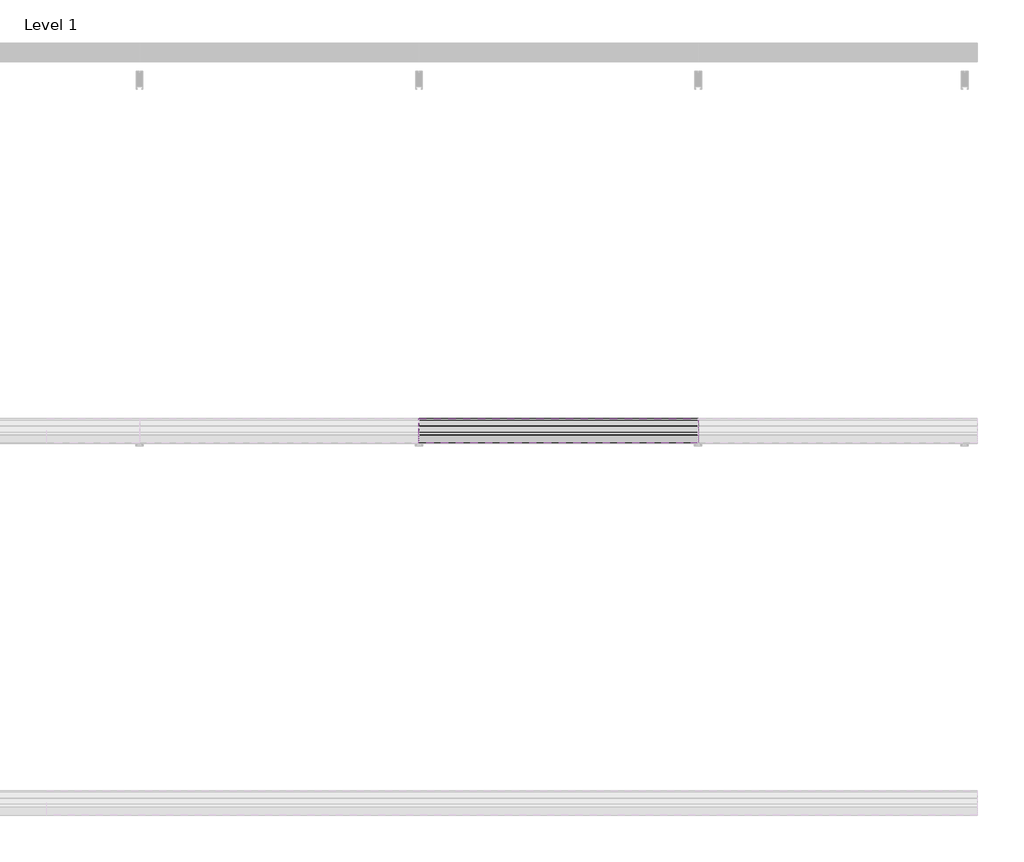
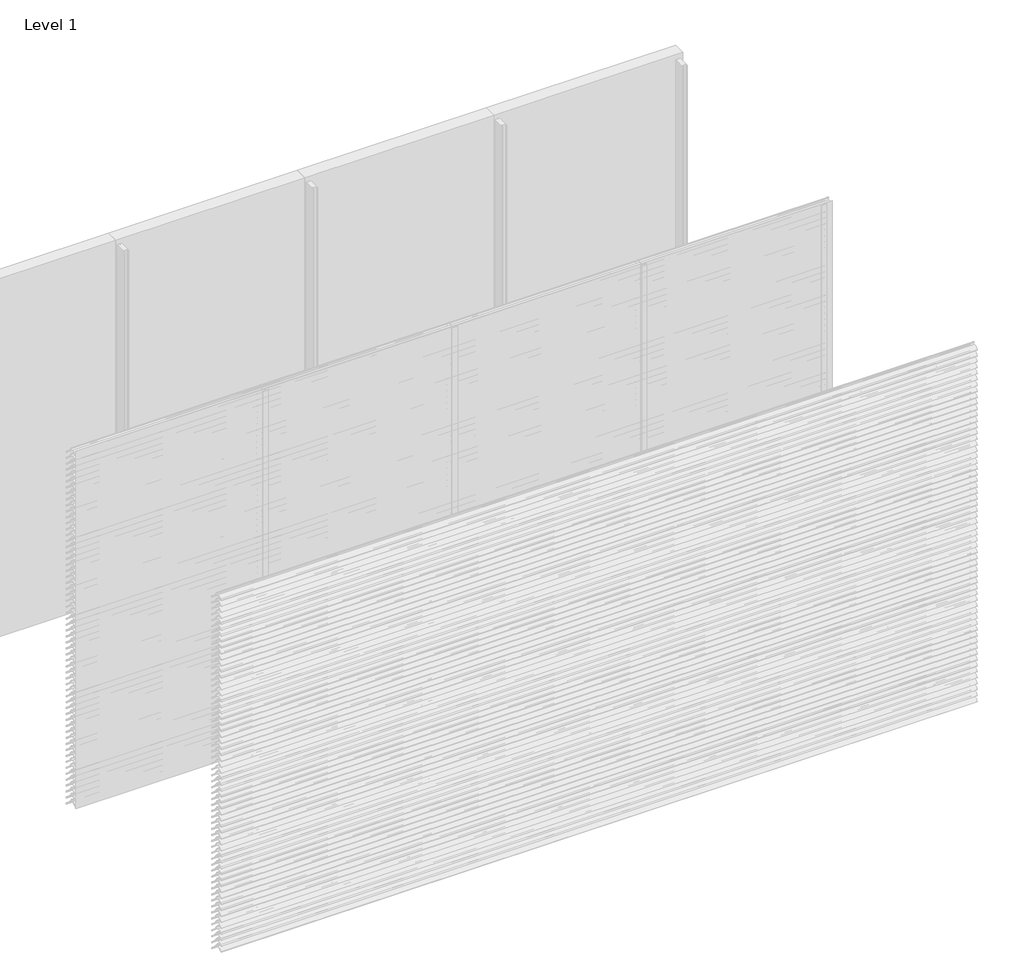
# One storey, part 101 of 173: 18 proxies.
"""IFC4 building model written with IfcOpenShell, lengths in millimetres."""

from ifc_helpers import new_model, si_unit, point, frame, frame_2d, origin, place, context, project, spatial, polyline, circle_curve, trimmed, segment, composite_curve, outline, extrude, element, save

model = new_model("IFC4")

# Units and contexts
model_context = context("Model", 3, world=origin())
ifc_project = project(units=[si_unit("LENGTHUNIT", "METRE", prefix="MILLI")], contexts=[model_context])

# Site, building, storey
site = spatial("IfcSite", under=ifc_project)
building = spatial("IfcBuilding", under=site)
storey = spatial("IfcBuildingStorey", under=building, Name="Level 1", Elevation=0.0)

# Proxies
placement = place(None, origin())
element("IfcBuildingElementProxy", 1, Name="Wall Sweeps", at=placement, inside=storey, context=model_context, shape_type="SweptSolid", body=[
    extrude(outline(composite_curve([segment(polyline([(-23998.0, 1259.1474905), (-23998.0, 1261.6227417)]), True, "CONTINUOUS"), segment(trimmed(circle_curve(frame_2d((-23951.2682172, 1216.2200208)), 65.1557103), [point((-23998.0, 1261.6227417))], [point((-23954.4014323, 1281.3003524))], False, "CARTESIAN"), True, "CONTINUOUS"), segment(polyline([(-23954.4014323, 1281.3003524), (-23934.8315836, 1281.3003524)]), True, "CONTINUOUS"), segment(trimmed(circle_curve(frame_2d((-23732.7329489, 1428.5533172)), 250.0545817), [point((-23934.8315836, 1281.3003524))], [point((-23941.4452143, 1290.8344583))], False, "CARTESIAN"), True, "CONTINUOUS"), segment(trimmed(circle_curve(frame_2d((-23953.2981792, 1285.1737835)), 13.1352966), [point((-23941.4452143, 1290.8344583))], [point((-23953.8171475, 1298.298824))], True, "CARTESIAN"), True, "CONTINUOUS"), segment(polyline([(-23953.8171475, 1298.298824), (-23953.8171475, 1300.0)]), True, "CONTINUOUS"), segment(trimmed(circle_curve(frame_2d((-23953.2981792, 1285.1737835)), 14.8352966), [point((-23953.8171475, 1300.0))], [point((-23939.9637661, 1291.6760487))], False, "CARTESIAN"), True, "CONTINUOUS"), segment(trimmed(circle_curve(frame_2d((-23732.7329489, 1428.5533172)), 248.3545817), [point((-23939.9637661, 1291.6760487))], [point((-23873.8787895, 1224.2059416))], True, "CARTESIAN"), True, "CONTINUOUS"), segment(trimmed(circle_curve(frame_2d((-23883.8147537, 1211.6649442)), 16.0), [point((-23873.8787895, 1224.2059416))], [point((-23867.8648347, 1210.4))], False, "CARTESIAN"), True, "CONTINUOUS"), segment(polyline([(-23867.8648347, 1210.4), (-23869.6712069, 1210.4)]), True, "CONTINUOUS"), segment(trimmed(circle_curve(frame_2d((-23883.8147537, 1211.6649442)), 14.2), [point((-23869.6712069, 1210.4))], [point((-23874.9518628, 1222.7594998))], True, "CARTESIAN"), True, "CONTINUOUS"), segment(trimmed(circle_curve(frame_2d((-23732.7329489, 1428.5533172)), 250.1545817), [point((-23874.9518628, 1222.7594998))], [point((-23933.7064024, 1279.6003524))], False, "CARTESIAN"), True, "CONTINUOUS"), segment(polyline([(-23933.7064024, 1279.6003524), (-23954.3602632, 1279.6003524)]), True, "CONTINUOUS"), segment(trimmed(circle_curve(frame_2d((-23951.2682172, 1216.2200208)), 63.4557103), [point((-23954.3602632, 1279.6003524))], [point((-23998.0, 1259.1474905))], True, "CARTESIAN"), True, "CONTINUOUS")], self_intersect=False)), frame((3000.0, 0.0, 0.0), z_axis=(1.0, 0.0, 0.0), x_axis=(0.0, 1.0, 0.0)), (0.0, 0.0, 1.0), 1500.0),
])
element("IfcBuildingElementProxy", 2, Name="Wall Sweeps", at=placement, inside=storey, context=model_context, shape_type="SweptSolid", body=[
    extrude(outline(composite_curve([segment(polyline([(-23998.0, 1209.1474905), (-23998.0, 1211.6227417)]), True, "CONTINUOUS"), segment(trimmed(circle_curve(frame_2d((-23951.2682172, 1166.2200208)), 65.1557103), [point((-23998.0, 1211.6227417))], [point((-23954.4014323, 1231.3003524))], False, "CARTESIAN"), True, "CONTINUOUS"), segment(polyline([(-23954.4014323, 1231.3003524), (-23934.8315836, 1231.3003524)]), True, "CONTINUOUS"), segment(trimmed(circle_curve(frame_2d((-23732.7329489, 1378.5533172)), 250.0545817), [point((-23934.8315836, 1231.3003524))], [point((-23941.4452143, 1240.8344583))], False, "CARTESIAN"), True, "CONTINUOUS"), segment(trimmed(circle_curve(frame_2d((-23953.2981792, 1235.1737835)), 13.1352966), [point((-23941.4452143, 1240.8344583))], [point((-23953.8171475, 1248.298824))], True, "CARTESIAN"), True, "CONTINUOUS"), segment(polyline([(-23953.8171475, 1248.298824), (-23953.8171475, 1250.0)]), True, "CONTINUOUS"), segment(trimmed(circle_curve(frame_2d((-23953.2981792, 1235.1737835)), 14.8352966), [point((-23953.8171475, 1250.0))], [point((-23939.9637661, 1241.6760487))], False, "CARTESIAN"), True, "CONTINUOUS"), segment(trimmed(circle_curve(frame_2d((-23732.7329489, 1378.5533172)), 248.3545817), [point((-23939.9637661, 1241.6760487))], [point((-23873.8787895, 1174.2059416))], True, "CARTESIAN"), True, "CONTINUOUS"), segment(trimmed(circle_curve(frame_2d((-23883.8147537, 1161.6649442)), 16.0), [point((-23873.8787895, 1174.2059416))], [point((-23867.8648347, 1160.4))], False, "CARTESIAN"), True, "CONTINUOUS"), segment(polyline([(-23867.8648347, 1160.4), (-23869.6712069, 1160.4)]), True, "CONTINUOUS"), segment(trimmed(circle_curve(frame_2d((-23883.8147537, 1161.6649442)), 14.2), [point((-23869.6712069, 1160.4))], [point((-23874.9518628, 1172.7594998))], True, "CARTESIAN"), True, "CONTINUOUS"), segment(trimmed(circle_curve(frame_2d((-23732.7329489, 1378.5533172)), 250.1545817), [point((-23874.9518628, 1172.7594998))], [point((-23933.7064024, 1229.6003524))], False, "CARTESIAN"), True, "CONTINUOUS"), segment(polyline([(-23933.7064024, 1229.6003524), (-23954.3602632, 1229.6003524)]), True, "CONTINUOUS"), segment(trimmed(circle_curve(frame_2d((-23951.2682172, 1166.2200208)), 63.4557103), [point((-23954.3602632, 1229.6003524))], [point((-23998.0, 1209.1474905))], True, "CARTESIAN"), True, "CONTINUOUS")], self_intersect=False)), frame((3000.0, 0.0, 0.0), z_axis=(1.0, 0.0, 0.0), x_axis=(0.0, 1.0, 0.0)), (0.0, 0.0, 1.0), 1500.0),
])
element("IfcBuildingElementProxy", 3, Name="Wall Sweeps", at=placement, inside=storey, context=model_context, shape_type="SweptSolid", body=[
    extrude(outline(composite_curve([segment(polyline([(-23998.0, 1159.1474905), (-23998.0, 1161.6227417)]), True, "CONTINUOUS"), segment(trimmed(circle_curve(frame_2d((-23951.2682172, 1116.2200208)), 65.1557103), [point((-23998.0, 1161.6227417))], [point((-23954.4014323, 1181.3003524))], False, "CARTESIAN"), True, "CONTINUOUS"), segment(polyline([(-23954.4014323, 1181.3003524), (-23934.8315836, 1181.3003524)]), True, "CONTINUOUS"), segment(trimmed(circle_curve(frame_2d((-23732.7329489, 1328.5533172)), 250.0545817), [point((-23934.8315836, 1181.3003524))], [point((-23941.4452143, 1190.8344583))], False, "CARTESIAN"), True, "CONTINUOUS"), segment(trimmed(circle_curve(frame_2d((-23953.2981792, 1185.1737835)), 13.1352966), [point((-23941.4452143, 1190.8344583))], [point((-23953.8171475, 1198.298824))], True, "CARTESIAN"), True, "CONTINUOUS"), segment(polyline([(-23953.8171475, 1198.298824), (-23953.8171475, 1200.0)]), True, "CONTINUOUS"), segment(trimmed(circle_curve(frame_2d((-23953.2981792, 1185.1737835)), 14.8352966), [point((-23953.8171475, 1200.0))], [point((-23939.9637661, 1191.6760487))], False, "CARTESIAN"), True, "CONTINUOUS"), segment(trimmed(circle_curve(frame_2d((-23732.7329489, 1328.5533172)), 248.3545817), [point((-23939.9637661, 1191.6760487))], [point((-23873.8787895, 1124.2059416))], True, "CARTESIAN"), True, "CONTINUOUS"), segment(trimmed(circle_curve(frame_2d((-23883.8147537, 1111.6649442)), 16.0), [point((-23873.8787895, 1124.2059416))], [point((-23867.8648347, 1110.4))], False, "CARTESIAN"), True, "CONTINUOUS"), segment(polyline([(-23867.8648347, 1110.4), (-23869.6712069, 1110.4)]), True, "CONTINUOUS"), segment(trimmed(circle_curve(frame_2d((-23883.8147537, 1111.6649442)), 14.2), [point((-23869.6712069, 1110.4))], [point((-23874.9518628, 1122.7594998))], True, "CARTESIAN"), True, "CONTINUOUS"), segment(trimmed(circle_curve(frame_2d((-23732.7329489, 1328.5533172)), 250.1545817), [point((-23874.9518628, 1122.7594998))], [point((-23933.7064024, 1179.6003524))], False, "CARTESIAN"), True, "CONTINUOUS"), segment(polyline([(-23933.7064024, 1179.6003524), (-23954.3602632, 1179.6003524)]), True, "CONTINUOUS"), segment(trimmed(circle_curve(frame_2d((-23951.2682172, 1116.2200208)), 63.4557103), [point((-23954.3602632, 1179.6003524))], [point((-23998.0, 1159.1474905))], True, "CARTESIAN"), True, "CONTINUOUS")], self_intersect=False)), frame((3000.0, 0.0, 0.0), z_axis=(1.0, 0.0, 0.0), x_axis=(0.0, 1.0, 0.0)), (0.0, 0.0, 1.0), 1500.0),
])
element("IfcBuildingElementProxy", 4, Name="Wall Sweeps", at=placement, inside=storey, context=model_context, shape_type="SweptSolid", body=[
    extrude(outline(composite_curve([segment(polyline([(-23998.0, 1109.1474905), (-23998.0, 1111.6227417)]), True, "CONTINUOUS"), segment(trimmed(circle_curve(frame_2d((-23951.2682172, 1066.2200208)), 65.1557103), [point((-23998.0, 1111.6227417))], [point((-23954.4014323, 1131.3003524))], False, "CARTESIAN"), True, "CONTINUOUS"), segment(polyline([(-23954.4014323, 1131.3003524), (-23934.8315836, 1131.3003524)]), True, "CONTINUOUS"), segment(trimmed(circle_curve(frame_2d((-23732.7329489, 1278.5533172)), 250.0545817), [point((-23934.8315836, 1131.3003524))], [point((-23941.4452143, 1140.8344583))], False, "CARTESIAN"), True, "CONTINUOUS"), segment(trimmed(circle_curve(frame_2d((-23953.2981792, 1135.1737835)), 13.1352966), [point((-23941.4452143, 1140.8344583))], [point((-23953.8171475, 1148.298824))], True, "CARTESIAN"), True, "CONTINUOUS"), segment(polyline([(-23953.8171475, 1148.298824), (-23953.8171475, 1150.0)]), True, "CONTINUOUS"), segment(trimmed(circle_curve(frame_2d((-23953.2981792, 1135.1737835)), 14.8352966), [point((-23953.8171475, 1150.0))], [point((-23939.9637661, 1141.6760487))], False, "CARTESIAN"), True, "CONTINUOUS"), segment(trimmed(circle_curve(frame_2d((-23732.7329489, 1278.5533172)), 248.3545817), [point((-23939.9637661, 1141.6760487))], [point((-23873.8787895, 1074.2059416))], True, "CARTESIAN"), True, "CONTINUOUS"), segment(trimmed(circle_curve(frame_2d((-23883.8147537, 1061.6649442)), 16.0), [point((-23873.8787895, 1074.2059416))], [point((-23867.8648347, 1060.4))], False, "CARTESIAN"), True, "CONTINUOUS"), segment(polyline([(-23867.8648347, 1060.4), (-23869.6712069, 1060.4)]), True, "CONTINUOUS"), segment(trimmed(circle_curve(frame_2d((-23883.8147537, 1061.6649442)), 14.2), [point((-23869.6712069, 1060.4))], [point((-23874.9518628, 1072.7594998))], True, "CARTESIAN"), True, "CONTINUOUS"), segment(trimmed(circle_curve(frame_2d((-23732.7329489, 1278.5533172)), 250.1545817), [point((-23874.9518628, 1072.7594998))], [point((-23933.7064024, 1129.6003524))], False, "CARTESIAN"), True, "CONTINUOUS"), segment(polyline([(-23933.7064024, 1129.6003524), (-23954.3602632, 1129.6003524)]), True, "CONTINUOUS"), segment(trimmed(circle_curve(frame_2d((-23951.2682172, 1066.2200208)), 63.4557103), [point((-23954.3602632, 1129.6003524))], [point((-23998.0, 1109.1474905))], True, "CARTESIAN"), True, "CONTINUOUS")], self_intersect=False)), frame((3000.0, 0.0, 0.0), z_axis=(1.0, 0.0, 0.0), x_axis=(0.0, 1.0, 0.0)), (0.0, 0.0, 1.0), 1500.0),
])
element("IfcBuildingElementProxy", 5, Name="Wall Sweeps", at=placement, inside=storey, context=model_context, shape_type="SweptSolid", body=[
    extrude(outline(composite_curve([segment(polyline([(-23998.0, 1059.1474905), (-23998.0, 1061.6227417)]), True, "CONTINUOUS"), segment(trimmed(circle_curve(frame_2d((-23951.2682172, 1016.2200208)), 65.1557103), [point((-23998.0, 1061.6227417))], [point((-23954.4014323, 1081.3003524))], False, "CARTESIAN"), True, "CONTINUOUS"), segment(polyline([(-23954.4014323, 1081.3003524), (-23934.8315836, 1081.3003524)]), True, "CONTINUOUS"), segment(trimmed(circle_curve(frame_2d((-23732.7329489, 1228.5533172)), 250.0545817), [point((-23934.8315836, 1081.3003524))], [point((-23941.4452143, 1090.8344583))], False, "CARTESIAN"), True, "CONTINUOUS"), segment(trimmed(circle_curve(frame_2d((-23953.2981792, 1085.1737835)), 13.1352966), [point((-23941.4452143, 1090.8344583))], [point((-23953.8171475, 1098.298824))], True, "CARTESIAN"), True, "CONTINUOUS"), segment(polyline([(-23953.8171475, 1098.298824), (-23953.8171475, 1100.0)]), True, "CONTINUOUS"), segment(trimmed(circle_curve(frame_2d((-23953.2981792, 1085.1737835)), 14.8352966), [point((-23953.8171475, 1100.0))], [point((-23939.9637661, 1091.6760487))], False, "CARTESIAN"), True, "CONTINUOUS"), segment(trimmed(circle_curve(frame_2d((-23732.7329489, 1228.5533172)), 248.3545817), [point((-23939.9637661, 1091.6760487))], [point((-23873.8787895, 1024.2059416))], True, "CARTESIAN"), True, "CONTINUOUS"), segment(trimmed(circle_curve(frame_2d((-23883.8147537, 1011.6649442)), 16.0), [point((-23873.8787895, 1024.2059416))], [point((-23867.8648347, 1010.4))], False, "CARTESIAN"), True, "CONTINUOUS"), segment(polyline([(-23867.8648347, 1010.4), (-23869.6712069, 1010.4)]), True, "CONTINUOUS"), segment(trimmed(circle_curve(frame_2d((-23883.8147537, 1011.6649442)), 14.2), [point((-23869.6712069, 1010.4))], [point((-23874.9518628, 1022.7594998))], True, "CARTESIAN"), True, "CONTINUOUS"), segment(trimmed(circle_curve(frame_2d((-23732.7329489, 1228.5533172)), 250.1545817), [point((-23874.9518628, 1022.7594998))], [point((-23933.7064024, 1079.6003524))], False, "CARTESIAN"), True, "CONTINUOUS"), segment(polyline([(-23933.7064024, 1079.6003524), (-23954.3602632, 1079.6003524)]), True, "CONTINUOUS"), segment(trimmed(circle_curve(frame_2d((-23951.2682172, 1016.2200208)), 63.4557103), [point((-23954.3602632, 1079.6003524))], [point((-23998.0, 1059.1474905))], True, "CARTESIAN"), True, "CONTINUOUS")], self_intersect=False)), frame((3000.0, 0.0, 0.0), z_axis=(1.0, 0.0, 0.0), x_axis=(0.0, 1.0, 0.0)), (0.0, 0.0, 1.0), 1500.0),
])
element("IfcBuildingElementProxy", 6, Name="Wall Sweeps", at=placement, inside=storey, context=model_context, shape_type="SweptSolid", body=[
    extrude(outline(composite_curve([segment(polyline([(-23998.0, 1009.1474905), (-23998.0, 1011.6227417)]), True, "CONTINUOUS"), segment(trimmed(circle_curve(frame_2d((-23951.2682172, 966.2200208)), 65.1557103), [point((-23998.0, 1011.6227417))], [point((-23954.4014323, 1031.3003524))], False, "CARTESIAN"), True, "CONTINUOUS"), segment(polyline([(-23954.4014323, 1031.3003524), (-23934.8315836, 1031.3003524)]), True, "CONTINUOUS"), segment(trimmed(circle_curve(frame_2d((-23732.7329489, 1178.5533172)), 250.0545817), [point((-23934.8315836, 1031.3003524))], [point((-23941.4452143, 1040.8344583))], False, "CARTESIAN"), True, "CONTINUOUS"), segment(trimmed(circle_curve(frame_2d((-23953.2981792, 1035.1737835)), 13.1352966), [point((-23941.4452143, 1040.8344583))], [point((-23953.8171475, 1048.298824))], True, "CARTESIAN"), True, "CONTINUOUS"), segment(polyline([(-23953.8171475, 1048.298824), (-23953.8171475, 1050.0)]), True, "CONTINUOUS"), segment(trimmed(circle_curve(frame_2d((-23953.2981792, 1035.1737835)), 14.8352966), [point((-23953.8171475, 1050.0))], [point((-23939.9637661, 1041.6760487))], False, "CARTESIAN"), True, "CONTINUOUS"), segment(trimmed(circle_curve(frame_2d((-23732.7329489, 1178.5533172)), 248.3545817), [point((-23939.9637661, 1041.6760487))], [point((-23873.8787895, 974.2059416))], True, "CARTESIAN"), True, "CONTINUOUS"), segment(trimmed(circle_curve(frame_2d((-23883.8147537, 961.6649442)), 16.0), [point((-23873.8787895, 974.2059416))], [point((-23867.8648347, 960.4))], False, "CARTESIAN"), True, "CONTINUOUS"), segment(polyline([(-23867.8648347, 960.4), (-23869.6712069, 960.4)]), True, "CONTINUOUS"), segment(trimmed(circle_curve(frame_2d((-23883.8147537, 961.6649442)), 14.2), [point((-23869.6712069, 960.4))], [point((-23874.9518628, 972.7594998))], True, "CARTESIAN"), True, "CONTINUOUS"), segment(trimmed(circle_curve(frame_2d((-23732.7329489, 1178.5533172)), 250.1545817), [point((-23874.9518628, 972.7594998))], [point((-23933.7064024, 1029.6003524))], False, "CARTESIAN"), True, "CONTINUOUS"), segment(polyline([(-23933.7064024, 1029.6003524), (-23954.3602632, 1029.6003524)]), True, "CONTINUOUS"), segment(trimmed(circle_curve(frame_2d((-23951.2682172, 966.2200208)), 63.4557103), [point((-23954.3602632, 1029.6003524))], [point((-23998.0, 1009.1474905))], True, "CARTESIAN"), True, "CONTINUOUS")], self_intersect=False)), frame((3000.0, 0.0, 0.0), z_axis=(1.0, 0.0, 0.0), x_axis=(0.0, 1.0, 0.0)), (0.0, 0.0, 1.0), 1500.0),
])
element("IfcBuildingElementProxy", 7, Name="Wall Sweeps", at=placement, inside=storey, context=model_context, shape_type="SweptSolid", body=[
    extrude(outline(composite_curve([segment(polyline([(-23998.0, 959.1474905), (-23998.0, 961.6227417)]), True, "CONTINUOUS"), segment(trimmed(circle_curve(frame_2d((-23951.2682172, 916.2200208)), 65.1557103), [point((-23998.0, 961.6227417))], [point((-23954.4014323, 981.3003524))], False, "CARTESIAN"), True, "CONTINUOUS"), segment(polyline([(-23954.4014323, 981.3003524), (-23934.8315836, 981.3003524)]), True, "CONTINUOUS"), segment(trimmed(circle_curve(frame_2d((-23732.7329489, 1128.5533172)), 250.0545817), [point((-23934.8315836, 981.3003524))], [point((-23941.4452143, 990.8344583))], False, "CARTESIAN"), True, "CONTINUOUS"), segment(trimmed(circle_curve(frame_2d((-23953.2981792, 985.1737835)), 13.1352966), [point((-23941.4452143, 990.8344583))], [point((-23953.8171475, 998.298824))], True, "CARTESIAN"), True, "CONTINUOUS"), segment(polyline([(-23953.8171475, 998.298824), (-23953.8171475, 1000.0)]), True, "CONTINUOUS"), segment(trimmed(circle_curve(frame_2d((-23953.2981792, 985.1737835)), 14.8352966), [point((-23953.8171475, 1000.0))], [point((-23939.9637661, 991.6760487))], False, "CARTESIAN"), True, "CONTINUOUS"), segment(trimmed(circle_curve(frame_2d((-23732.7329489, 1128.5533172)), 248.3545817), [point((-23939.9637661, 991.6760487))], [point((-23873.8787895, 924.2059416))], True, "CARTESIAN"), True, "CONTINUOUS"), segment(trimmed(circle_curve(frame_2d((-23883.8147537, 911.6649442)), 16.0), [point((-23873.8787895, 924.2059416))], [point((-23867.8648347, 910.4))], False, "CARTESIAN"), True, "CONTINUOUS"), segment(polyline([(-23867.8648347, 910.4), (-23869.6712069, 910.4)]), True, "CONTINUOUS"), segment(trimmed(circle_curve(frame_2d((-23883.8147537, 911.6649442)), 14.2), [point((-23869.6712069, 910.4))], [point((-23874.9518628, 922.7594998))], True, "CARTESIAN"), True, "CONTINUOUS"), segment(trimmed(circle_curve(frame_2d((-23732.7329489, 1128.5533172)), 250.1545817), [point((-23874.9518628, 922.7594998))], [point((-23933.7064024, 979.6003524))], False, "CARTESIAN"), True, "CONTINUOUS"), segment(polyline([(-23933.7064024, 979.6003524), (-23954.3602632, 979.6003524)]), True, "CONTINUOUS"), segment(trimmed(circle_curve(frame_2d((-23951.2682172, 916.2200208)), 63.4557103), [point((-23954.3602632, 979.6003524))], [point((-23998.0, 959.1474905))], True, "CARTESIAN"), True, "CONTINUOUS")], self_intersect=False)), frame((3000.0, 0.0, 0.0), z_axis=(1.0, 0.0, 0.0), x_axis=(0.0, 1.0, 0.0)), (0.0, 0.0, 1.0), 1500.0),
])
element("IfcBuildingElementProxy", 8, Name="Wall Sweeps", at=placement, inside=storey, context=model_context, shape_type="SweptSolid", body=[
    extrude(outline(composite_curve([segment(polyline([(-23998.0, 909.1474905), (-23998.0, 911.6227417)]), True, "CONTINUOUS"), segment(trimmed(circle_curve(frame_2d((-23951.2682172, 866.2200208)), 65.1557103), [point((-23998.0, 911.6227417))], [point((-23954.4014323, 931.3003524))], False, "CARTESIAN"), True, "CONTINUOUS"), segment(polyline([(-23954.4014323, 931.3003524), (-23934.8315836, 931.3003524)]), True, "CONTINUOUS"), segment(trimmed(circle_curve(frame_2d((-23732.7329489, 1078.5533172)), 250.0545817), [point((-23934.8315836, 931.3003524))], [point((-23941.4452143, 940.8344583))], False, "CARTESIAN"), True, "CONTINUOUS"), segment(trimmed(circle_curve(frame_2d((-23953.2981792, 935.1737835)), 13.1352966), [point((-23941.4452143, 940.8344583))], [point((-23953.8171475, 948.298824))], True, "CARTESIAN"), True, "CONTINUOUS"), segment(polyline([(-23953.8171475, 948.298824), (-23953.8171475, 950.0)]), True, "CONTINUOUS"), segment(trimmed(circle_curve(frame_2d((-23953.2981792, 935.1737835)), 14.8352966), [point((-23953.8171475, 950.0))], [point((-23939.9637661, 941.6760487))], False, "CARTESIAN"), True, "CONTINUOUS"), segment(trimmed(circle_curve(frame_2d((-23732.7329489, 1078.5533172)), 248.3545817), [point((-23939.9637661, 941.6760487))], [point((-23873.8787895, 874.2059416))], True, "CARTESIAN"), True, "CONTINUOUS"), segment(trimmed(circle_curve(frame_2d((-23883.8147537, 861.6649442)), 16.0), [point((-23873.8787895, 874.2059416))], [point((-23867.8648347, 860.4))], False, "CARTESIAN"), True, "CONTINUOUS"), segment(polyline([(-23867.8648347, 860.4), (-23869.6712069, 860.4)]), True, "CONTINUOUS"), segment(trimmed(circle_curve(frame_2d((-23883.8147537, 861.6649442)), 14.2), [point((-23869.6712069, 860.4))], [point((-23874.9518628, 872.7594998))], True, "CARTESIAN"), True, "CONTINUOUS"), segment(trimmed(circle_curve(frame_2d((-23732.7329489, 1078.5533172)), 250.1545817), [point((-23874.9518628, 872.7594998))], [point((-23933.7064024, 929.6003524))], False, "CARTESIAN"), True, "CONTINUOUS"), segment(polyline([(-23933.7064024, 929.6003524), (-23954.3602632, 929.6003524)]), True, "CONTINUOUS"), segment(trimmed(circle_curve(frame_2d((-23951.2682172, 866.2200208)), 63.4557103), [point((-23954.3602632, 929.6003524))], [point((-23998.0, 909.1474905))], True, "CARTESIAN"), True, "CONTINUOUS")], self_intersect=False)), frame((3000.0, 0.0, 0.0), z_axis=(1.0, 0.0, 0.0), x_axis=(0.0, 1.0, 0.0)), (0.0, 0.0, 1.0), 1500.0),
])
element("IfcBuildingElementProxy", 9, Name="Wall Sweeps", at=placement, inside=storey, context=model_context, shape_type="SweptSolid", body=[
    extrude(outline(composite_curve([segment(polyline([(-23998.0, 859.1474905), (-23998.0, 861.6227417)]), True, "CONTINUOUS"), segment(trimmed(circle_curve(frame_2d((-23951.2682172, 816.2200208)), 65.1557103), [point((-23998.0, 861.6227417))], [point((-23954.4014323, 881.3003524))], False, "CARTESIAN"), True, "CONTINUOUS"), segment(polyline([(-23954.4014323, 881.3003524), (-23934.8315836, 881.3003524)]), True, "CONTINUOUS"), segment(trimmed(circle_curve(frame_2d((-23732.7329489, 1028.5533172)), 250.0545817), [point((-23934.8315836, 881.3003524))], [point((-23941.4452143, 890.8344583))], False, "CARTESIAN"), True, "CONTINUOUS"), segment(trimmed(circle_curve(frame_2d((-23953.2981792, 885.1737835)), 13.1352966), [point((-23941.4452143, 890.8344583))], [point((-23953.8171475, 898.298824))], True, "CARTESIAN"), True, "CONTINUOUS"), segment(polyline([(-23953.8171475, 898.298824), (-23953.8171475, 900.0)]), True, "CONTINUOUS"), segment(trimmed(circle_curve(frame_2d((-23953.2981792, 885.1737835)), 14.8352966), [point((-23953.8171475, 900.0))], [point((-23939.9637661, 891.6760487))], False, "CARTESIAN"), True, "CONTINUOUS"), segment(trimmed(circle_curve(frame_2d((-23732.7329489, 1028.5533172)), 248.3545817), [point((-23939.9637661, 891.6760487))], [point((-23873.8787895, 824.2059416))], True, "CARTESIAN"), True, "CONTINUOUS"), segment(trimmed(circle_curve(frame_2d((-23883.8147537, 811.6649442)), 16.0), [point((-23873.8787895, 824.2059416))], [point((-23867.8648347, 810.4))], False, "CARTESIAN"), True, "CONTINUOUS"), segment(polyline([(-23867.8648347, 810.4), (-23869.6712069, 810.4)]), True, "CONTINUOUS"), segment(trimmed(circle_curve(frame_2d((-23883.8147537, 811.6649442)), 14.2), [point((-23869.6712069, 810.4))], [point((-23874.9518628, 822.7594998))], True, "CARTESIAN"), True, "CONTINUOUS"), segment(trimmed(circle_curve(frame_2d((-23732.7329489, 1028.5533172)), 250.1545817), [point((-23874.9518628, 822.7594998))], [point((-23933.7064024, 879.6003524))], False, "CARTESIAN"), True, "CONTINUOUS"), segment(polyline([(-23933.7064024, 879.6003524), (-23954.3602632, 879.6003524)]), True, "CONTINUOUS"), segment(trimmed(circle_curve(frame_2d((-23951.2682172, 816.2200208)), 63.4557103), [point((-23954.3602632, 879.6003524))], [point((-23998.0, 859.1474905))], True, "CARTESIAN"), True, "CONTINUOUS")], self_intersect=False)), frame((3000.0, 0.0, 0.0), z_axis=(1.0, 0.0, 0.0), x_axis=(0.0, 1.0, 0.0)), (0.0, 0.0, 1.0), 1500.0),
])
element("IfcBuildingElementProxy", 10, Name="Wall Sweeps", at=placement, inside=storey, context=model_context, shape_type="SweptSolid", body=[
    extrude(outline(composite_curve([segment(polyline([(-23998.0, 809.1474905), (-23998.0, 811.6227417)]), True, "CONTINUOUS"), segment(trimmed(circle_curve(frame_2d((-23951.2682172, 766.2200208)), 65.1557103), [point((-23998.0, 811.6227417))], [point((-23954.4014323, 831.3003524))], False, "CARTESIAN"), True, "CONTINUOUS"), segment(polyline([(-23954.4014323, 831.3003524), (-23934.8315836, 831.3003524)]), True, "CONTINUOUS"), segment(trimmed(circle_curve(frame_2d((-23732.7329489, 978.5533172)), 250.0545817), [point((-23934.8315836, 831.3003524))], [point((-23941.4452143, 840.8344583))], False, "CARTESIAN"), True, "CONTINUOUS"), segment(trimmed(circle_curve(frame_2d((-23953.2981792, 835.1737835)), 13.1352966), [point((-23941.4452143, 840.8344583))], [point((-23953.8171475, 848.298824))], True, "CARTESIAN"), True, "CONTINUOUS"), segment(polyline([(-23953.8171475, 848.298824), (-23953.8171475, 850.0)]), True, "CONTINUOUS"), segment(trimmed(circle_curve(frame_2d((-23953.2981792, 835.1737835)), 14.8352966), [point((-23953.8171475, 850.0))], [point((-23939.9637661, 841.6760487))], False, "CARTESIAN"), True, "CONTINUOUS"), segment(trimmed(circle_curve(frame_2d((-23732.7329489, 978.5533172)), 248.3545817), [point((-23939.9637661, 841.6760487))], [point((-23873.8787895, 774.2059416))], True, "CARTESIAN"), True, "CONTINUOUS"), segment(trimmed(circle_curve(frame_2d((-23883.8147537, 761.6649442)), 16.0), [point((-23873.8787895, 774.2059416))], [point((-23867.8648347, 760.4))], False, "CARTESIAN"), True, "CONTINUOUS"), segment(polyline([(-23867.8648347, 760.4), (-23869.6712069, 760.4)]), True, "CONTINUOUS"), segment(trimmed(circle_curve(frame_2d((-23883.8147537, 761.6649442)), 14.2), [point((-23869.6712069, 760.4))], [point((-23874.9518628, 772.7594998))], True, "CARTESIAN"), True, "CONTINUOUS"), segment(trimmed(circle_curve(frame_2d((-23732.7329489, 978.5533172)), 250.1545817), [point((-23874.9518628, 772.7594998))], [point((-23933.7064024, 829.6003524))], False, "CARTESIAN"), True, "CONTINUOUS"), segment(polyline([(-23933.7064024, 829.6003524), (-23954.3602632, 829.6003524)]), True, "CONTINUOUS"), segment(trimmed(circle_curve(frame_2d((-23951.2682172, 766.2200208)), 63.4557103), [point((-23954.3602632, 829.6003524))], [point((-23998.0, 809.1474905))], True, "CARTESIAN"), True, "CONTINUOUS")], self_intersect=False)), frame((3000.0, 0.0, 0.0), z_axis=(1.0, 0.0, 0.0), x_axis=(0.0, 1.0, 0.0)), (0.0, 0.0, 1.0), 1500.0),
])
element("IfcBuildingElementProxy", 11, Name="Wall Sweeps", at=placement, inside=storey, context=model_context, shape_type="SweptSolid", body=[
    extrude(outline(composite_curve([segment(polyline([(-23998.0, 759.1474905), (-23998.0, 761.6227417)]), True, "CONTINUOUS"), segment(trimmed(circle_curve(frame_2d((-23951.2682172, 716.2200208)), 65.1557103), [point((-23998.0, 761.6227417))], [point((-23954.4014323, 781.3003524))], False, "CARTESIAN"), True, "CONTINUOUS"), segment(polyline([(-23954.4014323, 781.3003524), (-23934.8315836, 781.3003524)]), True, "CONTINUOUS"), segment(trimmed(circle_curve(frame_2d((-23732.7329489, 928.5533172)), 250.0545817), [point((-23934.8315836, 781.3003524))], [point((-23941.4452143, 790.8344583))], False, "CARTESIAN"), True, "CONTINUOUS"), segment(trimmed(circle_curve(frame_2d((-23953.2981792, 785.1737835)), 13.1352966), [point((-23941.4452143, 790.8344583))], [point((-23953.8171475, 798.298824))], True, "CARTESIAN"), True, "CONTINUOUS"), segment(polyline([(-23953.8171475, 798.298824), (-23953.8171475, 800.0)]), True, "CONTINUOUS"), segment(trimmed(circle_curve(frame_2d((-23953.2981792, 785.1737835)), 14.8352966), [point((-23953.8171475, 800.0))], [point((-23939.9637661, 791.6760487))], False, "CARTESIAN"), True, "CONTINUOUS"), segment(trimmed(circle_curve(frame_2d((-23732.7329489, 928.5533172)), 248.3545817), [point((-23939.9637661, 791.6760487))], [point((-23873.8787895, 724.2059416))], True, "CARTESIAN"), True, "CONTINUOUS"), segment(trimmed(circle_curve(frame_2d((-23883.8147537, 711.6649442)), 16.0), [point((-23873.8787895, 724.2059416))], [point((-23867.8648347, 710.4))], False, "CARTESIAN"), True, "CONTINUOUS"), segment(polyline([(-23867.8648347, 710.4), (-23869.6712069, 710.4)]), True, "CONTINUOUS"), segment(trimmed(circle_curve(frame_2d((-23883.8147537, 711.6649442)), 14.2), [point((-23869.6712069, 710.4))], [point((-23874.9518628, 722.7594998))], True, "CARTESIAN"), True, "CONTINUOUS"), segment(trimmed(circle_curve(frame_2d((-23732.7329489, 928.5533172)), 250.1545817), [point((-23874.9518628, 722.7594998))], [point((-23933.7064024, 779.6003524))], False, "CARTESIAN"), True, "CONTINUOUS"), segment(polyline([(-23933.7064024, 779.6003524), (-23954.3602632, 779.6003524)]), True, "CONTINUOUS"), segment(trimmed(circle_curve(frame_2d((-23951.2682172, 716.2200208)), 63.4557103), [point((-23954.3602632, 779.6003524))], [point((-23998.0, 759.1474905))], True, "CARTESIAN"), True, "CONTINUOUS")], self_intersect=False)), frame((3000.0, 0.0, 0.0), z_axis=(1.0, 0.0, 0.0), x_axis=(0.0, 1.0, 0.0)), (0.0, 0.0, 1.0), 1500.0),
])
element("IfcBuildingElementProxy", 12, Name="Wall Sweeps", at=placement, inside=storey, context=model_context, shape_type="SweptSolid", body=[
    extrude(outline(composite_curve([segment(polyline([(-23998.0, 709.1474905), (-23998.0, 711.6227417)]), True, "CONTINUOUS"), segment(trimmed(circle_curve(frame_2d((-23951.2682172, 666.2200208)), 65.1557103), [point((-23998.0, 711.6227417))], [point((-23954.4014323, 731.3003524))], False, "CARTESIAN"), True, "CONTINUOUS"), segment(polyline([(-23954.4014323, 731.3003524), (-23934.8315836, 731.3003524)]), True, "CONTINUOUS"), segment(trimmed(circle_curve(frame_2d((-23732.7329489, 878.5533172)), 250.0545817), [point((-23934.8315836, 731.3003524))], [point((-23941.4452143, 740.8344583))], False, "CARTESIAN"), True, "CONTINUOUS"), segment(trimmed(circle_curve(frame_2d((-23953.2981792, 735.1737835)), 13.1352966), [point((-23941.4452143, 740.8344583))], [point((-23953.8171475, 748.298824))], True, "CARTESIAN"), True, "CONTINUOUS"), segment(polyline([(-23953.8171475, 748.298824), (-23953.8171475, 750.0)]), True, "CONTINUOUS"), segment(trimmed(circle_curve(frame_2d((-23953.2981792, 735.1737835)), 14.8352966), [point((-23953.8171475, 750.0))], [point((-23939.9637661, 741.6760487))], False, "CARTESIAN"), True, "CONTINUOUS"), segment(trimmed(circle_curve(frame_2d((-23732.7329489, 878.5533172)), 248.3545817), [point((-23939.9637661, 741.6760487))], [point((-23873.8787895, 674.2059416))], True, "CARTESIAN"), True, "CONTINUOUS"), segment(trimmed(circle_curve(frame_2d((-23883.8147537, 661.6649442)), 16.0), [point((-23873.8787895, 674.2059416))], [point((-23867.8648347, 660.4))], False, "CARTESIAN"), True, "CONTINUOUS"), segment(polyline([(-23867.8648347, 660.4), (-23869.6712069, 660.4)]), True, "CONTINUOUS"), segment(trimmed(circle_curve(frame_2d((-23883.8147537, 661.6649442)), 14.2), [point((-23869.6712069, 660.4))], [point((-23874.9518628, 672.7594998))], True, "CARTESIAN"), True, "CONTINUOUS"), segment(trimmed(circle_curve(frame_2d((-23732.7329489, 878.5533172)), 250.1545817), [point((-23874.9518628, 672.7594998))], [point((-23933.7064024, 729.6003524))], False, "CARTESIAN"), True, "CONTINUOUS"), segment(polyline([(-23933.7064024, 729.6003524), (-23954.3602632, 729.6003524)]), True, "CONTINUOUS"), segment(trimmed(circle_curve(frame_2d((-23951.2682172, 666.2200208)), 63.4557103), [point((-23954.3602632, 729.6003524))], [point((-23998.0, 709.1474905))], True, "CARTESIAN"), True, "CONTINUOUS")], self_intersect=False)), frame((3000.0, 0.0, 0.0), z_axis=(1.0, 0.0, 0.0), x_axis=(0.0, 1.0, 0.0)), (0.0, 0.0, 1.0), 1500.0),
])
element("IfcBuildingElementProxy", 13, Name="Wall Sweeps", at=placement, inside=storey, context=model_context, shape_type="SweptSolid", body=[
    extrude(outline(composite_curve([segment(polyline([(-23998.0, 659.1474905), (-23998.0, 661.6227417)]), True, "CONTINUOUS"), segment(trimmed(circle_curve(frame_2d((-23951.2682172, 616.2200208)), 65.1557103), [point((-23998.0, 661.6227417))], [point((-23954.4014323, 681.3003524))], False, "CARTESIAN"), True, "CONTINUOUS"), segment(polyline([(-23954.4014323, 681.3003524), (-23934.8315836, 681.3003524)]), True, "CONTINUOUS"), segment(trimmed(circle_curve(frame_2d((-23732.7329489, 828.5533172)), 250.0545817), [point((-23934.8315836, 681.3003524))], [point((-23941.4452143, 690.8344583))], False, "CARTESIAN"), True, "CONTINUOUS"), segment(trimmed(circle_curve(frame_2d((-23953.2981792, 685.1737835)), 13.1352966), [point((-23941.4452143, 690.8344583))], [point((-23953.8171475, 698.298824))], True, "CARTESIAN"), True, "CONTINUOUS"), segment(polyline([(-23953.8171475, 698.298824), (-23953.8171475, 700.0)]), True, "CONTINUOUS"), segment(trimmed(circle_curve(frame_2d((-23953.2981792, 685.1737835)), 14.8352966), [point((-23953.8171475, 700.0))], [point((-23939.9637661, 691.6760487))], False, "CARTESIAN"), True, "CONTINUOUS"), segment(trimmed(circle_curve(frame_2d((-23732.7329489, 828.5533172)), 248.3545817), [point((-23939.9637661, 691.6760487))], [point((-23873.8787895, 624.2059416))], True, "CARTESIAN"), True, "CONTINUOUS"), segment(trimmed(circle_curve(frame_2d((-23883.8147537, 611.6649442)), 16.0), [point((-23873.8787895, 624.2059416))], [point((-23867.8648347, 610.4))], False, "CARTESIAN"), True, "CONTINUOUS"), segment(polyline([(-23867.8648347, 610.4), (-23869.6712069, 610.4)]), True, "CONTINUOUS"), segment(trimmed(circle_curve(frame_2d((-23883.8147537, 611.6649442)), 14.2), [point((-23869.6712069, 610.4))], [point((-23874.9518628, 622.7594998))], True, "CARTESIAN"), True, "CONTINUOUS"), segment(trimmed(circle_curve(frame_2d((-23732.7329489, 828.5533172)), 250.1545817), [point((-23874.9518628, 622.7594998))], [point((-23933.7064024, 679.6003524))], False, "CARTESIAN"), True, "CONTINUOUS"), segment(polyline([(-23933.7064024, 679.6003524), (-23954.3602632, 679.6003524)]), True, "CONTINUOUS"), segment(trimmed(circle_curve(frame_2d((-23951.2682172, 616.2200208)), 63.4557103), [point((-23954.3602632, 679.6003524))], [point((-23998.0, 659.1474905))], True, "CARTESIAN"), True, "CONTINUOUS")], self_intersect=False)), frame((3000.0, 0.0, 0.0), z_axis=(1.0, 0.0, 0.0), x_axis=(0.0, 1.0, 0.0)), (0.0, 0.0, 1.0), 1500.0),
])
element("IfcBuildingElementProxy", 14, Name="Wall Sweeps", at=placement, inside=storey, context=model_context, shape_type="SweptSolid", body=[
    extrude(outline(composite_curve([segment(polyline([(-23998.0, 609.1474905), (-23998.0, 611.6227417)]), True, "CONTINUOUS"), segment(trimmed(circle_curve(frame_2d((-23951.2682172, 566.2200208)), 65.1557103), [point((-23998.0, 611.6227417))], [point((-23954.4014323, 631.3003524))], False, "CARTESIAN"), True, "CONTINUOUS"), segment(polyline([(-23954.4014323, 631.3003524), (-23934.8315836, 631.3003524)]), True, "CONTINUOUS"), segment(trimmed(circle_curve(frame_2d((-23732.7329489, 778.5533172)), 250.0545817), [point((-23934.8315836, 631.3003524))], [point((-23941.4452143, 640.8344583))], False, "CARTESIAN"), True, "CONTINUOUS"), segment(trimmed(circle_curve(frame_2d((-23953.2981792, 635.1737835)), 13.1352966), [point((-23941.4452143, 640.8344583))], [point((-23953.8171475, 648.298824))], True, "CARTESIAN"), True, "CONTINUOUS"), segment(polyline([(-23953.8171475, 648.298824), (-23953.8171475, 650.0)]), True, "CONTINUOUS"), segment(trimmed(circle_curve(frame_2d((-23953.2981792, 635.1737835)), 14.8352966), [point((-23953.8171475, 650.0))], [point((-23939.9637661, 641.6760487))], False, "CARTESIAN"), True, "CONTINUOUS"), segment(trimmed(circle_curve(frame_2d((-23732.7329489, 778.5533172)), 248.3545817), [point((-23939.9637661, 641.6760487))], [point((-23873.8787895, 574.2059416))], True, "CARTESIAN"), True, "CONTINUOUS"), segment(trimmed(circle_curve(frame_2d((-23883.8147537, 561.6649442)), 16.0), [point((-23873.8787895, 574.2059416))], [point((-23867.8648347, 560.4))], False, "CARTESIAN"), True, "CONTINUOUS"), segment(polyline([(-23867.8648347, 560.4), (-23869.6712069, 560.4)]), True, "CONTINUOUS"), segment(trimmed(circle_curve(frame_2d((-23883.8147537, 561.6649442)), 14.2), [point((-23869.6712069, 560.4))], [point((-23874.9518628, 572.7594998))], True, "CARTESIAN"), True, "CONTINUOUS"), segment(trimmed(circle_curve(frame_2d((-23732.7329489, 778.5533172)), 250.1545817), [point((-23874.9518628, 572.7594998))], [point((-23933.7064024, 629.6003524))], False, "CARTESIAN"), True, "CONTINUOUS"), segment(polyline([(-23933.7064024, 629.6003524), (-23954.3602632, 629.6003524)]), True, "CONTINUOUS"), segment(trimmed(circle_curve(frame_2d((-23951.2682172, 566.2200208)), 63.4557103), [point((-23954.3602632, 629.6003524))], [point((-23998.0, 609.1474905))], True, "CARTESIAN"), True, "CONTINUOUS")], self_intersect=False)), frame((3000.0, 0.0, 0.0), z_axis=(1.0, 0.0, 0.0), x_axis=(0.0, 1.0, 0.0)), (0.0, 0.0, 1.0), 1500.0),
])
element("IfcBuildingElementProxy", 15, Name="Wall Sweeps", at=placement, inside=storey, context=model_context, shape_type="SweptSolid", body=[
    extrude(outline(composite_curve([segment(polyline([(-23998.0, 559.1474905), (-23998.0, 561.6227417)]), True, "CONTINUOUS"), segment(trimmed(circle_curve(frame_2d((-23951.2682172, 516.2200208)), 65.1557103), [point((-23998.0, 561.6227417))], [point((-23954.4014323, 581.3003524))], False, "CARTESIAN"), True, "CONTINUOUS"), segment(polyline([(-23954.4014323, 581.3003524), (-23934.8315836, 581.3003524)]), True, "CONTINUOUS"), segment(trimmed(circle_curve(frame_2d((-23732.7329489, 728.5533172)), 250.0545817), [point((-23934.8315836, 581.3003524))], [point((-23941.4452143, 590.8344583))], False, "CARTESIAN"), True, "CONTINUOUS"), segment(trimmed(circle_curve(frame_2d((-23953.2981792, 585.1737835)), 13.1352966), [point((-23941.4452143, 590.8344583))], [point((-23953.8171475, 598.298824))], True, "CARTESIAN"), True, "CONTINUOUS"), segment(polyline([(-23953.8171475, 598.298824), (-23953.8171475, 600.0)]), True, "CONTINUOUS"), segment(trimmed(circle_curve(frame_2d((-23953.2981792, 585.1737835)), 14.8352966), [point((-23953.8171475, 600.0))], [point((-23939.9637661, 591.6760487))], False, "CARTESIAN"), True, "CONTINUOUS"), segment(trimmed(circle_curve(frame_2d((-23732.7329489, 728.5533172)), 248.3545817), [point((-23939.9637661, 591.6760487))], [point((-23873.8787895, 524.2059416))], True, "CARTESIAN"), True, "CONTINUOUS"), segment(trimmed(circle_curve(frame_2d((-23883.8147537, 511.6649442)), 16.0), [point((-23873.8787895, 524.2059416))], [point((-23867.8648347, 510.4))], False, "CARTESIAN"), True, "CONTINUOUS"), segment(polyline([(-23867.8648347, 510.4), (-23869.6712069, 510.4)]), True, "CONTINUOUS"), segment(trimmed(circle_curve(frame_2d((-23883.8147537, 511.6649442)), 14.2), [point((-23869.6712069, 510.4))], [point((-23874.9518628, 522.7594998))], True, "CARTESIAN"), True, "CONTINUOUS"), segment(trimmed(circle_curve(frame_2d((-23732.7329489, 728.5533172)), 250.1545817), [point((-23874.9518628, 522.7594998))], [point((-23933.7064024, 579.6003524))], False, "CARTESIAN"), True, "CONTINUOUS"), segment(polyline([(-23933.7064024, 579.6003524), (-23954.3602632, 579.6003524)]), True, "CONTINUOUS"), segment(trimmed(circle_curve(frame_2d((-23951.2682172, 516.2200208)), 63.4557103), [point((-23954.3602632, 579.6003524))], [point((-23998.0, 559.1474905))], True, "CARTESIAN"), True, "CONTINUOUS")], self_intersect=False)), frame((3000.0, 0.0, 0.0), z_axis=(1.0, 0.0, 0.0), x_axis=(0.0, 1.0, 0.0)), (0.0, 0.0, 1.0), 1500.0),
])
element("IfcBuildingElementProxy", 16, Name="Wall Sweeps", at=placement, inside=storey, context=model_context, shape_type="SweptSolid", body=[
    extrude(outline(composite_curve([segment(polyline([(-23998.0, 509.1474905), (-23998.0, 511.6227417)]), True, "CONTINUOUS"), segment(trimmed(circle_curve(frame_2d((-23951.2682172, 466.2200208)), 65.1557103), [point((-23998.0, 511.6227417))], [point((-23954.4014323, 531.3003524))], False, "CARTESIAN"), True, "CONTINUOUS"), segment(polyline([(-23954.4014323, 531.3003524), (-23934.8315836, 531.3003524)]), True, "CONTINUOUS"), segment(trimmed(circle_curve(frame_2d((-23732.7329489, 678.5533172)), 250.0545817), [point((-23934.8315836, 531.3003524))], [point((-23941.4452143, 540.8344583))], False, "CARTESIAN"), True, "CONTINUOUS"), segment(trimmed(circle_curve(frame_2d((-23953.2981792, 535.1737835)), 13.1352966), [point((-23941.4452143, 540.8344583))], [point((-23953.8171475, 548.298824))], True, "CARTESIAN"), True, "CONTINUOUS"), segment(polyline([(-23953.8171475, 548.298824), (-23953.8171475, 550.0)]), True, "CONTINUOUS"), segment(trimmed(circle_curve(frame_2d((-23953.2981792, 535.1737835)), 14.8352966), [point((-23953.8171475, 550.0))], [point((-23939.9637661, 541.6760487))], False, "CARTESIAN"), True, "CONTINUOUS"), segment(trimmed(circle_curve(frame_2d((-23732.7329489, 678.5533172)), 248.3545817), [point((-23939.9637661, 541.6760487))], [point((-23873.8787895, 474.2059416))], True, "CARTESIAN"), True, "CONTINUOUS"), segment(trimmed(circle_curve(frame_2d((-23883.8147537, 461.6649442)), 16.0), [point((-23873.8787895, 474.2059416))], [point((-23867.8648347, 460.4))], False, "CARTESIAN"), True, "CONTINUOUS"), segment(polyline([(-23867.8648347, 460.4), (-23869.6712069, 460.4)]), True, "CONTINUOUS"), segment(trimmed(circle_curve(frame_2d((-23883.8147537, 461.6649442)), 14.2), [point((-23869.6712069, 460.4))], [point((-23874.9518628, 472.7594998))], True, "CARTESIAN"), True, "CONTINUOUS"), segment(trimmed(circle_curve(frame_2d((-23732.7329489, 678.5533172)), 250.1545817), [point((-23874.9518628, 472.7594998))], [point((-23933.7064024, 529.6003524))], False, "CARTESIAN"), True, "CONTINUOUS"), segment(polyline([(-23933.7064024, 529.6003524), (-23954.3602632, 529.6003524)]), True, "CONTINUOUS"), segment(trimmed(circle_curve(frame_2d((-23951.2682172, 466.2200208)), 63.4557103), [point((-23954.3602632, 529.6003524))], [point((-23998.0, 509.1474905))], True, "CARTESIAN"), True, "CONTINUOUS")], self_intersect=False)), frame((3000.0, 0.0, 0.0), z_axis=(1.0, 0.0, 0.0), x_axis=(0.0, 1.0, 0.0)), (0.0, 0.0, 1.0), 1500.0),
])
element("IfcBuildingElementProxy", 17, Name="Wall Sweeps", at=placement, inside=storey, context=model_context, shape_type="SweptSolid", body=[
    extrude(outline(composite_curve([segment(polyline([(-23998.0, 459.1474905), (-23998.0, 461.6227417)]), True, "CONTINUOUS"), segment(trimmed(circle_curve(frame_2d((-23951.2682172, 416.2200208)), 65.1557103), [point((-23998.0, 461.6227417))], [point((-23954.4014323, 481.3003524))], False, "CARTESIAN"), True, "CONTINUOUS"), segment(polyline([(-23954.4014323, 481.3003524), (-23934.8315836, 481.3003524)]), True, "CONTINUOUS"), segment(trimmed(circle_curve(frame_2d((-23732.7329489, 628.5533172)), 250.0545817), [point((-23934.8315836, 481.3003524))], [point((-23941.4452143, 490.8344583))], False, "CARTESIAN"), True, "CONTINUOUS"), segment(trimmed(circle_curve(frame_2d((-23953.2981792, 485.1737835)), 13.1352966), [point((-23941.4452143, 490.8344583))], [point((-23953.8171475, 498.298824))], True, "CARTESIAN"), True, "CONTINUOUS"), segment(polyline([(-23953.8171475, 498.298824), (-23953.8171475, 500.0)]), True, "CONTINUOUS"), segment(trimmed(circle_curve(frame_2d((-23953.2981792, 485.1737835)), 14.8352966), [point((-23953.8171475, 500.0))], [point((-23939.9637661, 491.6760487))], False, "CARTESIAN"), True, "CONTINUOUS"), segment(trimmed(circle_curve(frame_2d((-23732.7329489, 628.5533172)), 248.3545817), [point((-23939.9637661, 491.6760487))], [point((-23873.8787895, 424.2059416))], True, "CARTESIAN"), True, "CONTINUOUS"), segment(trimmed(circle_curve(frame_2d((-23883.8147537, 411.6649442)), 16.0), [point((-23873.8787895, 424.2059416))], [point((-23867.8648347, 410.4))], False, "CARTESIAN"), True, "CONTINUOUS"), segment(polyline([(-23867.8648347, 410.4), (-23869.6712069, 410.4)]), True, "CONTINUOUS"), segment(trimmed(circle_curve(frame_2d((-23883.8147537, 411.6649442)), 14.2), [point((-23869.6712069, 410.4))], [point((-23874.9518628, 422.7594998))], True, "CARTESIAN"), True, "CONTINUOUS"), segment(trimmed(circle_curve(frame_2d((-23732.7329489, 628.5533172)), 250.1545817), [point((-23874.9518628, 422.7594998))], [point((-23933.7064024, 479.6003524))], False, "CARTESIAN"), True, "CONTINUOUS"), segment(polyline([(-23933.7064024, 479.6003524), (-23954.3602632, 479.6003524)]), True, "CONTINUOUS"), segment(trimmed(circle_curve(frame_2d((-23951.2682172, 416.2200208)), 63.4557103), [point((-23954.3602632, 479.6003524))], [point((-23998.0, 459.1474905))], True, "CARTESIAN"), True, "CONTINUOUS")], self_intersect=False)), frame((3000.0, 0.0, 0.0), z_axis=(1.0, 0.0, 0.0), x_axis=(0.0, 1.0, 0.0)), (0.0, 0.0, 1.0), 1500.0),
])
element("IfcBuildingElementProxy", 18, Name="Wall Sweeps", at=placement, inside=storey, context=model_context, shape_type="SweptSolid", body=[
    extrude(outline(composite_curve([segment(polyline([(-23998.0, 409.1474905), (-23998.0, 411.6227417)]), True, "CONTINUOUS"), segment(trimmed(circle_curve(frame_2d((-23951.2682172, 366.2200208)), 65.1557103), [point((-23998.0, 411.6227417))], [point((-23954.4014323, 431.3003524))], False, "CARTESIAN"), True, "CONTINUOUS"), segment(polyline([(-23954.4014323, 431.3003524), (-23934.8315836, 431.3003524)]), True, "CONTINUOUS"), segment(trimmed(circle_curve(frame_2d((-23732.7329489, 578.5533172)), 250.0545817), [point((-23934.8315836, 431.3003524))], [point((-23941.4452143, 440.8344583))], False, "CARTESIAN"), True, "CONTINUOUS"), segment(trimmed(circle_curve(frame_2d((-23953.2981792, 435.1737835)), 13.1352966), [point((-23941.4452143, 440.8344583))], [point((-23953.8171475, 448.298824))], True, "CARTESIAN"), True, "CONTINUOUS"), segment(polyline([(-23953.8171475, 448.298824), (-23953.8171475, 450.0)]), True, "CONTINUOUS"), segment(trimmed(circle_curve(frame_2d((-23953.2981792, 435.1737835)), 14.8352966), [point((-23953.8171475, 450.0))], [point((-23939.9637661, 441.6760487))], False, "CARTESIAN"), True, "CONTINUOUS"), segment(trimmed(circle_curve(frame_2d((-23732.7329489, 578.5533172)), 248.3545817), [point((-23939.9637661, 441.6760487))], [point((-23873.8787895, 374.2059416))], True, "CARTESIAN"), True, "CONTINUOUS"), segment(trimmed(circle_curve(frame_2d((-23883.8147537, 361.6649442)), 16.0), [point((-23873.8787895, 374.2059416))], [point((-23867.8648347, 360.4))], False, "CARTESIAN"), True, "CONTINUOUS"), segment(polyline([(-23867.8648347, 360.4), (-23869.6712069, 360.4)]), True, "CONTINUOUS"), segment(trimmed(circle_curve(frame_2d((-23883.8147537, 361.6649442)), 14.2), [point((-23869.6712069, 360.4))], [point((-23874.9518628, 372.7594998))], True, "CARTESIAN"), True, "CONTINUOUS"), segment(trimmed(circle_curve(frame_2d((-23732.7329489, 578.5533172)), 250.1545817), [point((-23874.9518628, 372.7594998))], [point((-23933.7064024, 429.6003524))], False, "CARTESIAN"), True, "CONTINUOUS"), segment(polyline([(-23933.7064024, 429.6003524), (-23954.3602632, 429.6003524)]), True, "CONTINUOUS"), segment(trimmed(circle_curve(frame_2d((-23951.2682172, 366.2200208)), 63.4557103), [point((-23954.3602632, 429.6003524))], [point((-23998.0, 409.1474905))], True, "CARTESIAN"), True, "CONTINUOUS")], self_intersect=False)), frame((3000.0, 0.0, 0.0), z_axis=(1.0, 0.0, 0.0), x_axis=(0.0, 1.0, 0.0)), (0.0, 0.0, 1.0), 1500.0),
])

save(model, "model.ifc")
